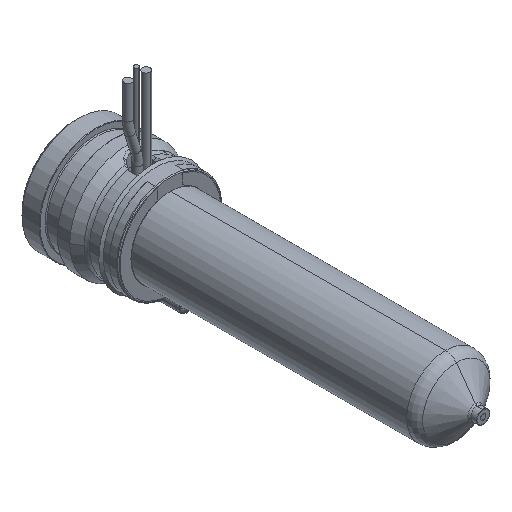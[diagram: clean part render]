
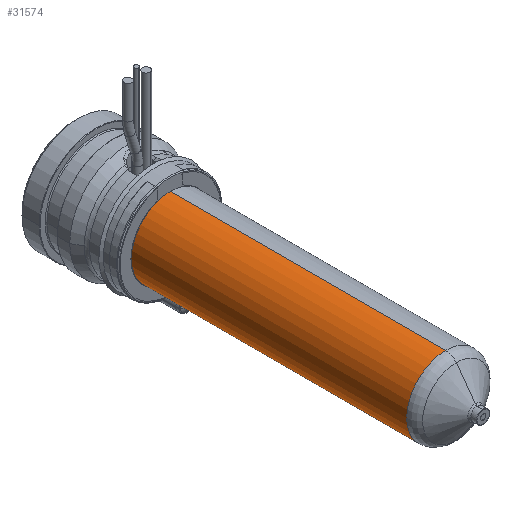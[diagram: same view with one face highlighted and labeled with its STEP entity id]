
A CAD part, isometric view. The second image highlights one B-rep face of the part: STEP entity #31574.
In plain terms, the highlighted cylindrical face has radius 9 mm (diameter 18 mm), a partial arc.
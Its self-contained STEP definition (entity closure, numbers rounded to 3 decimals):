
#31132=CARTESIAN_POINT('',(0.,-85.471,0.));
#31133=DIRECTION('',(0.,-1.,0.));
#31134=DIRECTION('',(0.,0.,1.));
#31135=AXIS2_PLACEMENT_3D('',#31132,#31133,#31134);
#31164=DIRECTION('',(0.,-1.,0.));
#31165=VECTOR('',#31164,63.471);
#31166=CARTESIAN_POINT('',(0.,-22.,9.));
#31167=LINE('',#31166,#31165);
#31179=DIRECTION('',(0.,-1.,0.));
#31180=VECTOR('',#31179,63.471);
#31181=CARTESIAN_POINT('',(0.,-22.,-9.));
#31182=LINE('',#31181,#31180);
#31186=CARTESIAN_POINT('',(0.,-22.,0.));
#31187=DIRECTION('',(0.,-1.,0.));
#31188=DIRECTION('',(0.,0.,1.));
#31189=AXIS2_PLACEMENT_3D('',#31186,#31187,#31188);
#31390=CARTESIAN_POINT('',(0.,-22.,9.));
#31391=CARTESIAN_POINT('',(0.,-85.471,9.));
#31392=VERTEX_POINT('',#31390);
#31393=VERTEX_POINT('',#31391);
#31402=CARTESIAN_POINT('',(0.,-22.,-9.));
#31403=CARTESIAN_POINT('',(0.,-85.471,-9.));
#31404=VERTEX_POINT('',#31402);
#31405=VERTEX_POINT('',#31403);
#31562=CARTESIAN_POINT('',(0.,-14.2,0.));
#31563=DIRECTION('',(0.,-1.,0.));
#31564=DIRECTION('',(0.,0.,1.));
#31565=AXIS2_PLACEMENT_3D('',#31562,#31563,#31564);
#31566=CYLINDRICAL_SURFACE('',#31565,9.);
#31567=ORIENTED_EDGE('',*,*,#31552,.T.);
#31568=ORIENTED_EDGE('',*,*,#31529,.T.);
#31569=ORIENTED_EDGE('',*,*,#31556,.F.);
#31571=ORIENTED_EDGE('',*,*,#31570,.F.);
#31572=EDGE_LOOP('',(#31567,#31568,#31569,#31571));
#31573=FACE_OUTER_BOUND('',#31572,.F.);
#31574=ADVANCED_FACE('',(#31573),#31566,.T.);
#31136=CIRCLE('',#31135,9.);
#31190=CIRCLE('',#31189,9.);
#31529=EDGE_CURVE('',#31393,#31405,#31136,.T.);
#31552=EDGE_CURVE('',#31392,#31393,#31167,.T.);
#31556=EDGE_CURVE('',#31404,#31405,#31182,.T.);
#31570=EDGE_CURVE('',#31392,#31404,#31190,.T.);
